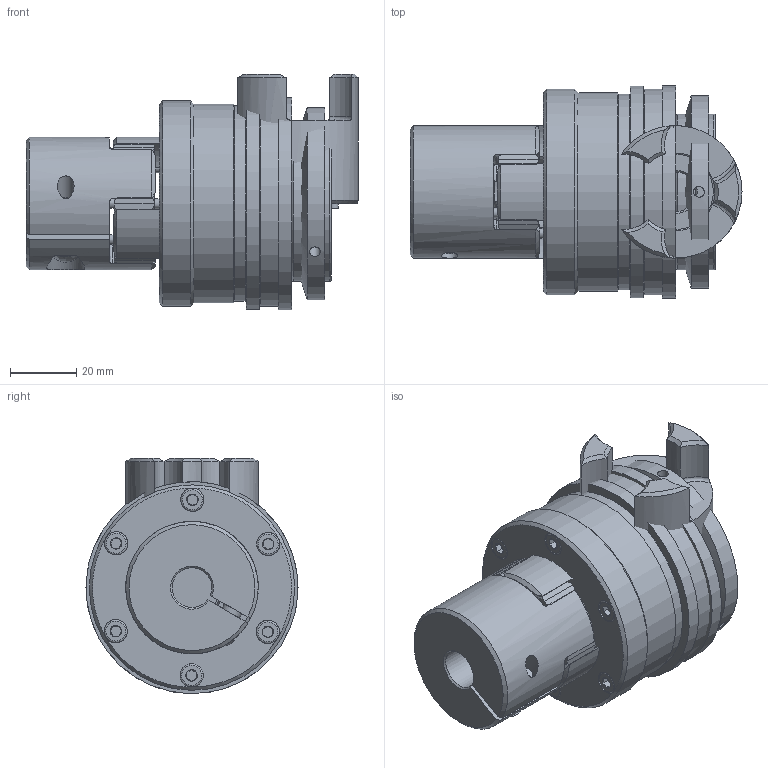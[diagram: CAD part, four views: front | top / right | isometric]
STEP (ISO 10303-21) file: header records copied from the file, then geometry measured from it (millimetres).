
FILE_DESCRIPTION( ( 'Unknown' ), '1' );
FILE_NAME( 'C:/Dokumente und Einstellungen/Sven/Desktop/hp kbk/E-KI/KBK EKI-19-93.stp', 'Unknown', ( 'Unknown' ), ( 'Unknown' ), 'XStep 1.0', 'Unknown', ' ' );
FILE_SCHEMA( ( 'automotive_design' ) );
Length unit declared in the file: millimetre
Products named in the file (17): Assem1; Assem2; ball_bearing_-_6005_0_01_0; ball_bearing_-_6005_0_02_0; ball_bearing_-_6005_0_03_0; KBK L-I-30 Grundkörper_0; Stellring 30_0; Druckring 30_0; Flansch L30_0; a_25_0; Konusbuchse KBK L-I-30_0; din_en_24017_m5x16_0; Elastomerflansch 19_0; Zahnkranz_19_0; KBE 2 - 19_Nabe; ISO EN DIN 4762_M4x16_0; schraube_iso_7380-m6x16-12_9_0
Bounding box: 100.2 x 64 x 71 mm (x, y, z)
Volume: 298688.6 mm3; surface area: 156323.5 mm2
Topology: 43 solids, 43 shells, 1012 faces, 2232 edges, 1409 vertices
Faces by surface type: plane 383, cylinder 298, cone 261, torus 68, bspline 2
Full cylindrical faces by diameter (mm): 2 x4, 3 x12, 3.242 x18, 3.5 x7, 4 x14, 4.134 x18, 4.2 x12, 5 x9, 5.5 x12, 6 x2, 6.5 x2, 6.88 x7, 7 x19, 8 x2, 12 x4, 18 x4, 23.9 x2, 24.4 x2, 25 x7, 32 x6, 34 x2, 38 x4, 39.5 x2, 40 x2, 40.3 x6, 47 x7, 52 x2, 58 x2, 59 x2, 60 x2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
Entity records: 11158 total; most frequent: CARTESIAN_POINT 2613, DIRECTION 1793, ORIENTED_EDGE 1430, AXIS2_PLACEMENT_3D 812, EDGE_CURVE 715, EDGE_LOOP 596, VERTEX_POINT 522, FACE_OUTER_BOUND 475
